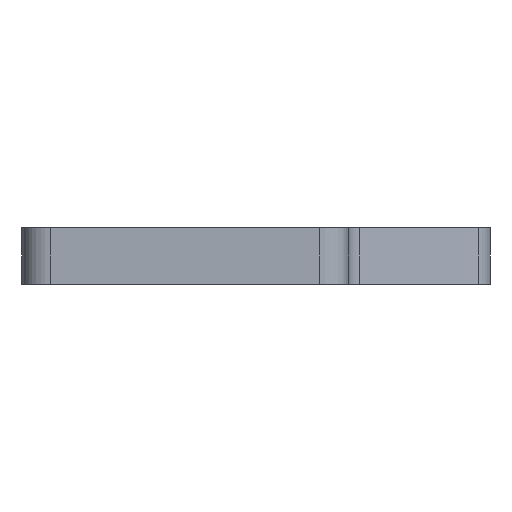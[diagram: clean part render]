
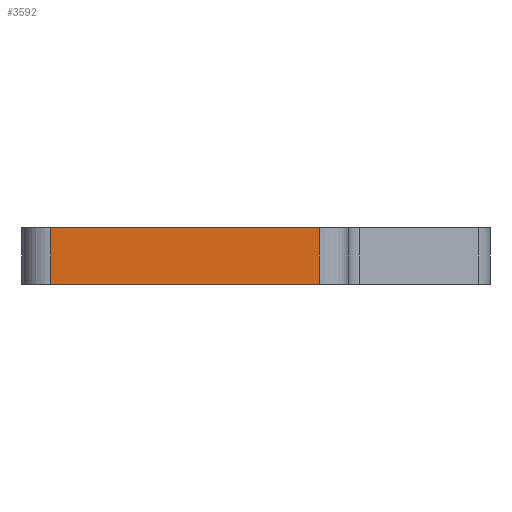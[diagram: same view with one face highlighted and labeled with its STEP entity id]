
A CAD part, front view. The second image highlights one B-rep face of the part: STEP entity #3592.
In plain terms, the highlighted planar face has unit normal (0, -1, 0).
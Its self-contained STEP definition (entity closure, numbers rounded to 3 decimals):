
#58=DIRECTION('',(1.,0.,0.));
#59=VECTOR('',#58,19.);
#60=CARTESIAN_POINT('',(-9.5,-8.5,0.));
#61=LINE('',#60,#59);
#139=DIRECTION('',(1.,0.,0.));
#140=VECTOR('',#139,19.);
#141=CARTESIAN_POINT('',(-9.5,-8.5,4.));
#142=LINE('',#141,#140);
#868=DIRECTION('',(0.,0.,-1.));
#869=VECTOR('',#868,4.);
#870=CARTESIAN_POINT('',(-9.5,-8.5,4.));
#871=LINE('',#870,#869);
#872=DIRECTION('',(0.,0.,-1.));
#873=VECTOR('',#872,4.);
#874=CARTESIAN_POINT('',(9.5,-8.5,4.));
#875=LINE('',#874,#873);
#2278=CARTESIAN_POINT('',(-9.5,-8.5,0.));
#2280=VERTEX_POINT('',#2278);
#2284=CARTESIAN_POINT('',(-9.5,-8.5,4.));
#2285=VERTEX_POINT('',#2284);
#2287=CARTESIAN_POINT('',(9.5,-8.5,0.));
#2289=VERTEX_POINT('',#2287);
#2290=CARTESIAN_POINT('',(9.5,-8.5,4.));
#2291=VERTEX_POINT('',#2290);
#3580=CARTESIAN_POINT('',(-11.5,-8.5,0.));
#3581=DIRECTION('',(0.,-1.,0.));
#3582=DIRECTION('',(1.,0.,0.));
#3583=AXIS2_PLACEMENT_3D('',#3580,#3581,#3582);
#3584=PLANE('',#3583);
#3586=ORIENTED_EDGE('',*,*,#3585,.F.);
#3587=ORIENTED_EDGE('',*,*,#3053,.T.);
#3588=ORIENTED_EDGE('',*,*,#3573,.T.);
#3589=ORIENTED_EDGE('',*,*,#2977,.F.);
#3590=EDGE_LOOP('',(#3586,#3587,#3588,#3589));
#3591=FACE_OUTER_BOUND('',#3590,.F.);
#3592=ADVANCED_FACE('',(#3591),#3584,.T.);
#2977=EDGE_CURVE('',#2280,#2289,#61,.T.);
#3053=EDGE_CURVE('',#2285,#2291,#142,.T.);
#3573=EDGE_CURVE('',#2291,#2289,#875,.T.);
#3585=EDGE_CURVE('',#2285,#2280,#871,.T.);
